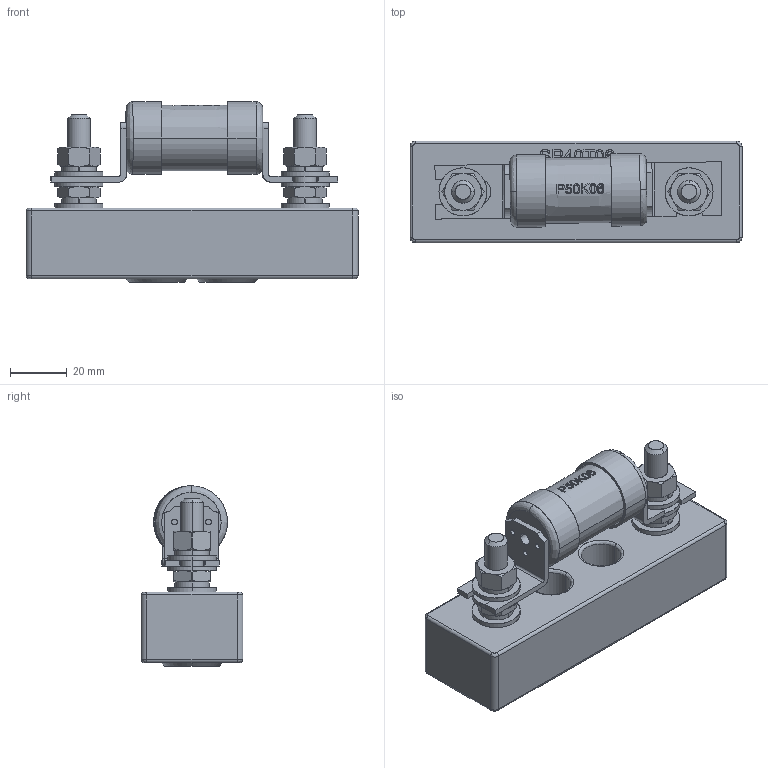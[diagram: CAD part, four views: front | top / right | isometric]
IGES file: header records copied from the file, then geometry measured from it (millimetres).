
Start section: SolidWorks IGES file using analytic representation for surfaces
Global section: file name: U:\14_RD\05_Technical_office\04_Office\Hrdinova\3D modely - IGES\Varius - Ostatní\SP40T06__P50N06.IGS; native system: SolidWorks 2011; preprocessor: SolidWorks 2011; author: adhrja3; date: 170620.141642; units: millimetre
Bounding box: 117.5 x 36 x 63.8 mm (x, y, z)
Surface area: 43186.9 mm2 (no closed solid volume)
Topology: 0 solids, 0 shells, 659 faces, 10476 edges, 10476 vertices
Faces by surface type: bspline 404, revolution 255
